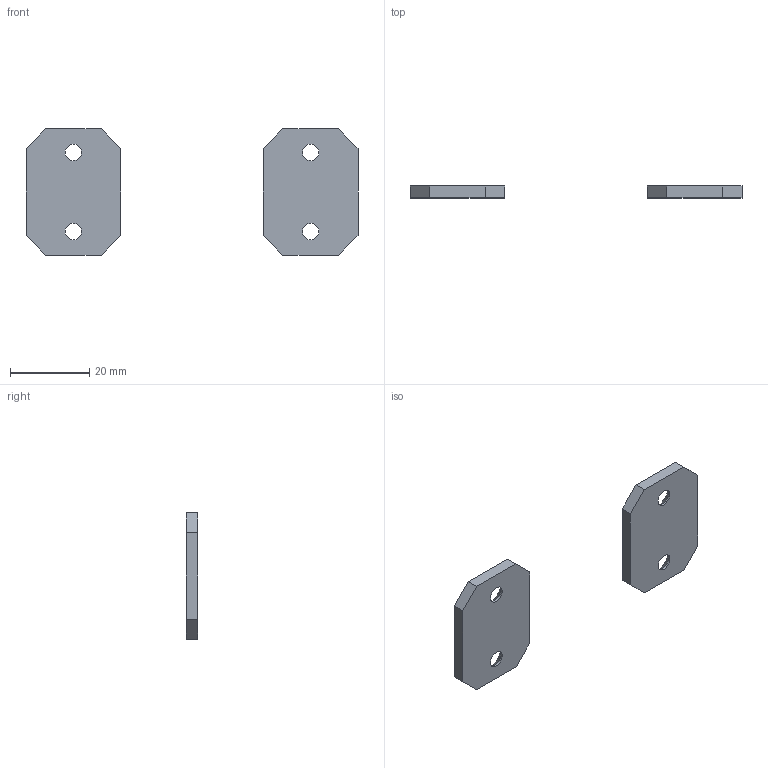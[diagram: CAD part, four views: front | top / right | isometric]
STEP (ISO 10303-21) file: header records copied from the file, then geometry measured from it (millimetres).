
FILE_DESCRIPTION(('CAx-IF Rec.Pracs.---Model Styling and Organization---1.2---2011-12-15','CAx-IF Rec.Pracs.---Geometric and Assembly Validation Properties---4.1---2014-06-16','CAx-IF Rec.Pracs.---PMI Polyline Presentation---2.0---2013-05-24'),'2;1');
FILE_NAME('R5M2WCK1-1.stp','2021-05-05T12:43:15+03:00',(''),(''),'STEP Interface 4.4 by CT CoreTechnologie','3D_Evolution4.4 by CT CoreTechnologie','');
FILE_SCHEMA(('AUTOMOTIVE_DESIGN { 1 0 10303 214 1 1 1 1 }'));
Length unit declared in the file: millimetre
Products named in the file (2): R5M2WCK1-1; RB.1512.00.00.0_-00
Assembly tree (2 placements, depth 2):
  R5M2WCK1-1
    RB.1512.00.00.0_-00  x2
Bounding box: 84 x 3 x 32 mm (x, y, z)
Surface area: 3476.5 mm2 (no closed solid volume)
Topology: 0 solids, 2 shells, 36 faces, 88 edges, 56 vertices
Faces by surface type: plane 20, bspline 8, cylinder 8
Entity records: 669 total; most frequent: CARTESIAN_POINT 145, DIRECTION 90, ORIENTED_EDGE 88, EDGE_CURVE 44, VECTOR 32, LINE 32, AXIS2_PLACEMENT_3D 29, VERTEX_POINT 28
